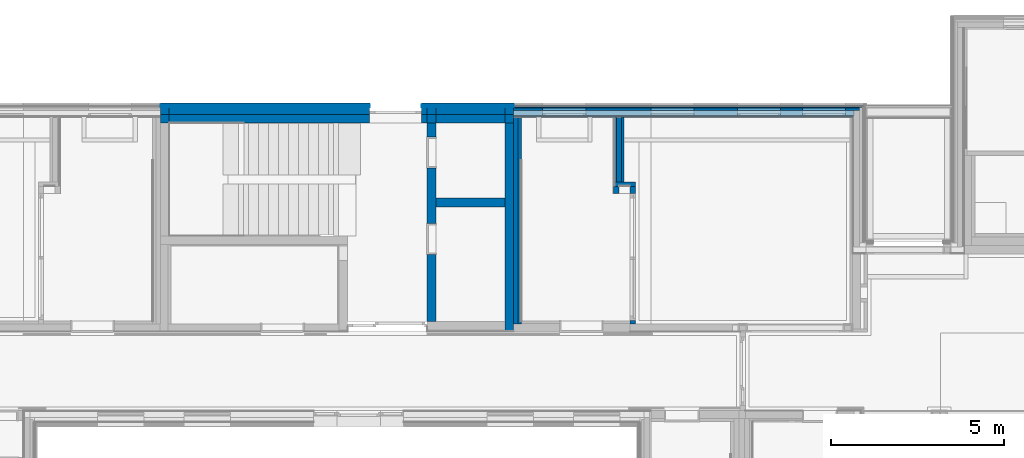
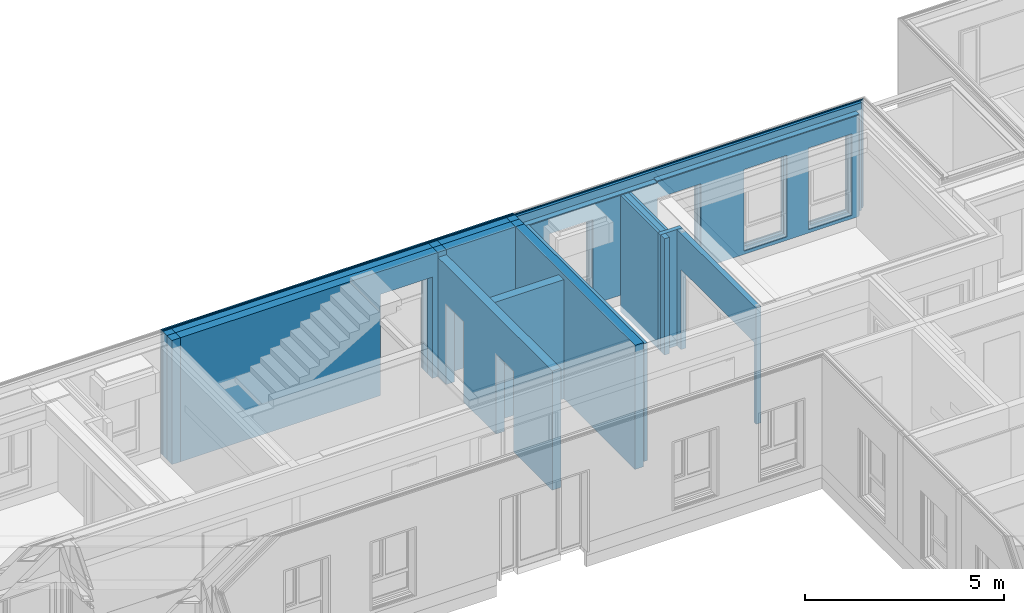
# One storey, part 41 of 207: 46 walls, 29 openings.
"""IFC4 building model written with IfcOpenShell, lengths in metres."""

from ifc_helpers import new_model, entity, si_unit, converted_unit, derived_unit, frame, frame_2d, origin, origin_with_axes, place, context, subcontext, project, spatial, polyline, rectangle, outline, extrude, clip, bounded_halfspace, material, element, save


model = new_model("IFC4")

# Units and contexts
model_context = context("Model", 3, precision=1e-05, world=origin())
body_context = subcontext(model_context, "Body", "Model", "MODEL_VIEW")
ifc_project = project(units=[si_unit("LENGTHUNIT", "METRE"), si_unit("AREAUNIT", "SQUARE_METRE"), si_unit("VOLUMEUNIT", "CUBIC_METRE"), si_unit("MASSUNIT", "GRAM", prefix="KILO"), converted_unit("PLANEANGLEUNIT", "DEGREE", entity("IfcPlaneAngleMeasure", 0.0174532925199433), si_unit("PLANEANGLEUNIT", "RADIAN"), dimensions=[0, 0, 0, 0, 0, 0, 0]), derived_unit("THERMALTRANSMITTANCEUNIT", [(si_unit("POWERUNIT", "WATT"), 1), (si_unit("THERMODYNAMICTEMPERATUREUNIT", "KELVIN"), -1), (si_unit("LENGTHUNIT", "METRE"), -2)]), derived_unit("VOLUMETRICFLOWRATEUNIT", [(si_unit("LENGTHUNIT", "METRE"), 3), (converted_unit("TIMEUNIT", "hour", entity("IfcTimeMeasure", 3600.0), si_unit("TIMEUNIT", "SECOND"), dimensions=[0, 0, 1, 0, 0, 0, 0]), -1), (si_unit("LENGTHUNIT", "METRE"), -1)])], contexts=[model_context])

# Site, building, storey
site_placement = place(None, origin())
site = spatial("IfcSite", under=ifc_project, at=site_placement, Name="Psychiatrie Neubau Wunstorf", CompositionType="ELEMENT")
building_placement = place(site_placement, origin())
building = spatial("IfcBuilding", under=site, at=building_placement, Name="Neubau H2 Stationsgebäude", CompositionType="ELEMENT")
storey_placement = place(building_placement, frame((0.0, 0.0, -0.2)))
storey = spatial("IfcBuildingStorey", under=building, at=storey_placement, Name="H2 Ebene 0", CompositionType="ELEMENT", Elevation=-0.2)

# Wall, openings
ifc_material_1 = material(Name="WA-LB")
wall_1_placement = place(storey_placement, frame((58.1, 29.0639996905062, 0.5)))
wall_1 = element("IfcWall", 1, at=wall_1_placement, inside=storey, material=ifc_material_1, context=body_context, shape_type="Clipping", body=[
    clip(extrude(rectangle(XDim=9.78900000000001, YDim=0.036, at=frame_2d((4.8945, 0.018), x_axis=(1.0, 0.0))), origin_with_axes(), (0.0, 0.0, 1.0), 3.1), bounded_halfspace(frame((1.98125000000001, 0.018, 3.06), z_axis=(0.0, 0.0, -1.0), x_axis=(-1.0, 0.0, 0.0)), True, origin_with_axes(), polyline([(3.96250000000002, 0.036), (0.0, 0.036), (0.0, 0.0), (3.96250000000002, 0.0), (3.96250000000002, 0.036)]))),
])
opening_1_placement = place(wall_1_placement, frame((9.58750000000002, 0.036, 0.1), z_axis=(0.0, -1.0, 0.0), x_axis=(0.0, 0.0, 1.0)))
element("IfcOpeningElement", 2, at=opening_1_placement, cuts=wall_1, Name="Fensteröffnung", ObjectType="Opening", context=body_context, shape_type="SweptSolid", body=[
    extrude(outline(polyline([(2.5, 1.25), (2.5, 0.0), (0.0, 0.0), (0.0, 1.25), (2.5, 1.25)])), origin_with_axes(), (0.0, 0.0, 1.0), 0.036),
])
opening_2_placement = place(wall_1_placement, frame((5.21250000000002, 0.036, 0.1), z_axis=(0.0, -1.0, 0.0), x_axis=(0.0, 0.0, 1.0)))
element("IfcOpeningElement", 3, at=opening_2_placement, cuts=wall_1, Name="Fensteröffnung", ObjectType="Opening", context=body_context, shape_type="SweptSolid", body=[
    extrude(outline(polyline([(2.5, 1.25), (2.5, 0.0), (0.0, 0.0), (0.0, 1.25), (2.5, 1.25)])), origin_with_axes(), (0.0, 0.0, 1.0), 0.036),
])
opening_3_placement = place(wall_1_placement, frame((2.08750000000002, 0.036, 0.1), z_axis=(0.0, -1.0, 0.0), x_axis=(0.0, 0.0, 1.0)))
element("IfcOpeningElement", 4, at=opening_3_placement, cuts=wall_1, Name="Fensteröffnung", ObjectType="Opening", context=body_context, shape_type="SweptSolid", body=[
    extrude(outline(polyline([(2.5, 1.25), (2.5, 0.0), (0.0, 0.0), (0.0, 1.25), (2.5, 1.25)])), origin_with_axes(), (0.0, 0.0, 1.0), 0.036),
])
opening_4_placement = place(wall_1_placement, frame((7.71250000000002, 0.036, 0.1), z_axis=(0.0, -1.0, 0.0), x_axis=(0.0, 0.0, 1.0)))
element("IfcOpeningElement", 5, at=opening_4_placement, cuts=wall_1, Name="Fensteröffnung", ObjectType="Opening", context=body_context, shape_type="SweptSolid", body=[
    extrude(outline(polyline([(2.5, 1.25), (2.5, 0.0), (0.0, 0.0), (0.0, 1.25), (2.5, 1.25)])), origin_with_axes(), (0.0, 0.0, 1.0), 0.036),
])

ifc_material_2 = material(Name="WA-HD")
wall_2_placement = place(storey_placement, frame((58.1, 29.0999996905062, 0.5)))
wall_2 = element("IfcWall", 6, at=wall_2_placement, inside=storey, material=ifc_material_2, context=body_context, shape_type="Clipping", body=[
    clip(extrude(rectangle(XDim=9.82500000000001, YDim=0.16, at=frame_2d((4.9125, 0.08), x_axis=(1.0, 0.0))), origin_with_axes(), (0.0, 0.0, 1.0), 3.1), bounded_halfspace(frame((1.98125000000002, 0.08, 3.06), z_axis=(0.0, 0.0, -1.0), x_axis=(-1.0, 0.0, 0.0)), True, origin_with_axes(), polyline([(3.96250000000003, 0.16), (0.0, 0.16), (0.0, 0.0), (3.96250000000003, 0.0), (3.96250000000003, 0.16)]))),
])
opening_5_placement = place(wall_2_placement, frame((9.58750000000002, 0.16, 0.1), z_axis=(0.0, -1.0, 0.0), x_axis=(0.0, 0.0, 1.0)))
element("IfcOpeningElement", 7, at=opening_5_placement, cuts=wall_2, Name="Fensteröffnung", ObjectType="Opening", context=body_context, shape_type="SweptSolid", body=[
    extrude(outline(polyline([(2.5, 1.25), (2.5, 0.0), (0.0, 0.0), (0.0, 1.25), (2.5, 1.25)])), origin_with_axes(), (0.0, 0.0, 1.0), 0.16),
])
opening_6_placement = place(wall_2_placement, frame((2.08750000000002, 0.16, 0.1), z_axis=(0.0, -1.0, 0.0), x_axis=(0.0, 0.0, 1.0)))
element("IfcOpeningElement", 8, at=opening_6_placement, cuts=wall_2, Name="Fensteröffnung", ObjectType="Opening", context=body_context, shape_type="SweptSolid", body=[
    extrude(outline(polyline([(2.5, 1.25), (2.5, 0.0), (0.0, 0.0), (0.0, 1.25), (2.5, 1.25)])), origin_with_axes(), (0.0, 0.0, 1.0), 0.16),
])
opening_7_placement = place(wall_2_placement, frame((5.21250000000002, 0.16, 0.1), z_axis=(0.0, -1.0, 0.0), x_axis=(0.0, 0.0, 1.0)))
element("IfcOpeningElement", 9, at=opening_7_placement, cuts=wall_2, Name="Fensteröffnung", ObjectType="Opening", context=body_context, shape_type="SweptSolid", body=[
    extrude(outline(polyline([(2.5, 1.25), (2.5, 0.0), (0.0, 0.0), (0.0, 1.25), (2.5, 1.25)])), origin_with_axes(), (0.0, 0.0, 1.0), 0.16),
])
opening_8_placement = place(wall_2_placement, frame((7.71250000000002, 0.16, 0.1), z_axis=(0.0, -1.0, 0.0), x_axis=(0.0, 0.0, 1.0)))
element("IfcOpeningElement", 10, at=opening_8_placement, cuts=wall_2, Name="Fensteröffnung", ObjectType="Opening", context=body_context, shape_type="SweptSolid", body=[
    extrude(outline(polyline([(2.5, 1.25), (2.5, 0.0), (0.0, 0.0), (0.0, 1.25), (2.5, 1.25)])), origin_with_axes(), (0.0, 0.0, 1.0), 0.16),
])

ifc_material_3 = material(Name="WA-DL")
wall_3_placement = place(storey_placement, frame((58.1, 29.2599996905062, 0.5)))
wall_3 = element("IfcWall", 11, at=wall_3_placement, inside=storey, material=ifc_material_3, context=body_context, shape_type="SweptSolid", body=[
    extrude(rectangle(XDim=9.98500000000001, YDim=0.08, at=frame_2d((4.9925, 0.04), x_axis=(1.0, 0.0))), origin_with_axes(), (0.0, 0.0, 1.0), 3.3),
])
opening_9_placement = place(wall_3_placement, frame((9.58750000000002, 0.08, 0.1), z_axis=(0.0, -1.0, 0.0), x_axis=(0.0, 0.0, 1.0)))
element("IfcOpeningElement", 12, at=opening_9_placement, cuts=wall_3, Name="Fensteröffnung", ObjectType="Opening", context=body_context, shape_type="SweptSolid", body=[
    extrude(outline(polyline([(2.5, 1.25), (2.5, 0.0), (0.0, 0.0), (0.0, 1.25), (2.5, 1.25)])), origin_with_axes(), (0.0, 0.0, 1.0), 0.08),
])
opening_10_placement = place(wall_3_placement, frame((2.08750000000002, 0.08, 0.1), z_axis=(0.0, -1.0, 0.0), x_axis=(0.0, 0.0, 1.0)))
element("IfcOpeningElement", 13, at=opening_10_placement, cuts=wall_3, Name="Fensteröffnung", ObjectType="Opening", context=body_context, shape_type="SweptSolid", body=[
    extrude(outline(polyline([(2.5, 1.25), (2.5, 0.0), (0.0, 0.0), (0.0, 1.25), (2.5, 1.25)])), origin_with_axes(), (0.0, 0.0, 1.0), 0.08),
])
opening_11_placement = place(wall_3_placement, frame((5.21250000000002, 0.08, 0.1), z_axis=(0.0, -1.0, 0.0), x_axis=(0.0, 0.0, 1.0)))
element("IfcOpeningElement", 14, at=opening_11_placement, cuts=wall_3, Name="Fensteröffnung", ObjectType="Opening", context=body_context, shape_type="SweptSolid", body=[
    extrude(outline(polyline([(2.5, 1.25), (2.5, 0.0), (0.0, 0.0), (0.0, 1.25), (2.5, 1.25)])), origin_with_axes(), (0.0, 0.0, 1.0), 0.08),
])
opening_12_placement = place(wall_3_placement, frame((7.71250000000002, 0.08, 0.1), z_axis=(0.0, -1.0, 0.0), x_axis=(0.0, 0.0, 1.0)))
element("IfcOpeningElement", 15, at=opening_12_placement, cuts=wall_3, Name="Fensteröffnung", ObjectType="Opening", context=body_context, shape_type="SweptSolid", body=[
    extrude(outline(polyline([(2.5, 1.25), (2.5, 0.0), (0.0, 0.0), (0.0, 1.25), (2.5, 1.25)])), origin_with_axes(), (0.0, 0.0, 1.0), 0.08),
])

ifc_material_4 = material(Name="WA-TP")
wall_4_placement = place(storey_placement, frame((58.1, 29.3399996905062, 0.5)))
wall_4 = element("IfcWall", 16, at=wall_4_placement, inside=storey, material=ifc_material_4, context=body_context, shape_type="SweptSolid", body=[
    extrude(rectangle(XDim=10.065, YDim=0.036, at=frame_2d((5.0325, 0.018), x_axis=(1.0, 0.0))), origin_with_axes(), (0.0, 0.0, 1.0), 3.3),
])
opening_13_placement = place(wall_4_placement, frame((9.58750000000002, 0.036, 0.1), z_axis=(0.0, -1.0, 0.0), x_axis=(0.0, 0.0, 1.0)))
element("IfcOpeningElement", 17, at=opening_13_placement, cuts=wall_4, Name="Fensteröffnung", ObjectType="Opening", context=body_context, shape_type="SweptSolid", body=[
    extrude(outline(polyline([(2.5, 1.25), (2.5, 0.0), (0.0, 0.0), (0.0, 1.25), (2.5, 1.25)])), origin_with_axes(), (0.0, 0.0, 1.0), 0.036),
])
opening_14_placement = place(wall_4_placement, frame((2.08750000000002, 0.036, 0.1), z_axis=(0.0, -1.0, 0.0), x_axis=(0.0, 0.0, 1.0)))
element("IfcOpeningElement", 18, at=opening_14_placement, cuts=wall_4, Name="Fensteröffnung", ObjectType="Opening", context=body_context, shape_type="SweptSolid", body=[
    extrude(outline(polyline([(2.5, 1.25), (2.5, 0.0), (0.0, 0.0), (0.0, 1.25), (2.5, 1.25)])), origin_with_axes(), (0.0, 0.0, 1.0), 0.036),
])
opening_15_placement = place(wall_4_placement, frame((5.21250000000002, 0.036, 0.1), z_axis=(0.0, -1.0, 0.0), x_axis=(0.0, 0.0, 1.0)))
element("IfcOpeningElement", 19, at=opening_15_placement, cuts=wall_4, Name="Fensteröffnung", ObjectType="Opening", context=body_context, shape_type="SweptSolid", body=[
    extrude(outline(polyline([(2.5, 1.25), (2.5, 0.0), (0.0, 0.0), (0.0, 1.25), (2.5, 1.25)])), origin_with_axes(), (0.0, 0.0, 1.0), 0.036),
])
opening_16_placement = place(wall_4_placement, frame((7.71250000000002, 0.036, 0.1), z_axis=(0.0, -1.0, 0.0), x_axis=(0.0, 0.0, 1.0)))
element("IfcOpeningElement", 20, at=opening_16_placement, cuts=wall_4, Name="Fensteröffnung", ObjectType="Opening", context=body_context, shape_type="SweptSolid", body=[
    extrude(outline(polyline([(2.5, 1.25), (2.5, 0.0), (0.0, 0.0), (0.0, 1.25), (2.5, 1.25)])), origin_with_axes(), (0.0, 0.0, 1.0), 0.036),
])

ifc_material_5 = material(Name="WA-KL")
wall_5_placement = place(storey_placement, frame((58.1, 29.3759996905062, 0.5)))
wall_5 = element("IfcWall", 21, at=wall_5_placement, inside=storey, material=ifc_material_5, context=body_context, shape_type="SweptSolid", body=[
    extrude(rectangle(XDim=10.101, YDim=0.024, at=frame_2d((5.0505, 0.012), x_axis=(1.0, 0.0))), origin_with_axes(), (0.0, 0.0, 1.0), 3.3),
])
opening_17_placement = place(wall_5_placement, frame((9.58750000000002, 0.024, 0.1), z_axis=(0.0, -1.0, 0.0), x_axis=(0.0, 0.0, 1.0)))
element("IfcOpeningElement", 22, at=opening_17_placement, cuts=wall_5, Name="Fensteröffnung", ObjectType="Opening", context=body_context, shape_type="SweptSolid", body=[
    extrude(outline(polyline([(2.5, 1.25), (2.5, 0.0), (0.0, 0.0), (0.0, 1.25), (2.5, 1.25)])), origin_with_axes(), (0.0, 0.0, 1.0), 0.024),
])
opening_18_placement = place(wall_5_placement, frame((2.08750000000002, 0.024, 0.1), z_axis=(0.0, -1.0, 0.0), x_axis=(0.0, 0.0, 1.0)))
element("IfcOpeningElement", 23, at=opening_18_placement, cuts=wall_5, Name="Fensteröffnung", ObjectType="Opening", context=body_context, shape_type="SweptSolid", body=[
    extrude(outline(polyline([(2.5, 1.25), (2.5, 0.0), (0.0, 0.0), (0.0, 1.25), (2.5, 1.25)])), origin_with_axes(), (0.0, 0.0, 1.0), 0.024),
])
opening_19_placement = place(wall_5_placement, frame((5.21250000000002, 0.024, 0.1), z_axis=(0.0, -1.0, 0.0), x_axis=(0.0, 0.0, 1.0)))
element("IfcOpeningElement", 24, at=opening_19_placement, cuts=wall_5, Name="Fensteröffnung", ObjectType="Opening", context=body_context, shape_type="SweptSolid", body=[
    extrude(outline(polyline([(2.5, 1.25), (2.5, 0.0), (0.0, 0.0), (0.0, 1.25), (2.5, 1.25)])), origin_with_axes(), (0.0, 0.0, 1.0), 0.024),
])
opening_20_placement = place(wall_5_placement, frame((7.71250000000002, 0.024, 0.1), z_axis=(0.0, -1.0, 0.0), x_axis=(0.0, 0.0, 1.0)))
element("IfcOpeningElement", 25, at=opening_20_placement, cuts=wall_5, Name="Fensteröffnung", ObjectType="Opening", context=body_context, shape_type="SweptSolid", body=[
    extrude(outline(polyline([(2.5, 1.25), (2.5, 0.0), (0.0, 0.0), (0.0, 1.25), (2.5, 1.25)])), origin_with_axes(), (0.0, 0.0, 1.0), 0.024),
])

# Walls
ifc_material_6 = material(Name="WA-STB")
wall_6_placement = place(storey_placement, frame((47.9, 28.8949996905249, 0.0)))
element("IfcWall", 26, at=wall_6_placement, inside=storey, material=ifc_material_6, context=body_context, shape_type="SweptSolid", body=[
    extrude(rectangle(XDim=0.25, YDim=0.25, at=frame_2d((0.125, 0.125), x_axis=(1.0, 0.0))), origin_with_axes(), (0.0, 0.0, 1.0), 3.8),
])
ifc_material_7 = material(Name="WA-DL")
wall_7_placement = place(storey_placement, frame((47.9, 29.1449996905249, 0.0)))
element("IfcWall", 27, at=wall_7_placement, inside=storey, material=ifc_material_7, context=body_context, shape_type="SweptSolid", body=[
    extrude(rectangle(XDim=0.25, YDim=0.21, at=frame_2d((0.125, 0.105), x_axis=(1.0, 0.0))), origin_with_axes(), (0.0, 0.0, 1.0), 3.8),
])
ifc_material_8 = material(Name="WA-LB")
wall_8_placement = place(storey_placement, frame((47.9, 29.3549996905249, 0.5)))
element("IfcWall", 28, at=wall_8_placement, inside=storey, material=ifc_material_8, context=body_context, shape_type="SweptSolid", body=[
    extrude(rectangle(XDim=0.25, YDim=0.021, at=frame_2d((0.125, 0.0105), x_axis=(1.0, 0.0))), origin_with_axes(), (0.0, 0.0, 1.0), 3.3),
])
ifc_material_9 = material(Name="WA-KL")
wall_9_placement = place(storey_placement, frame((47.9, 29.3759996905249, 0.0)))
element("IfcWall", 29, at=wall_9_placement, inside=storey, material=ifc_material_9, context=body_context, shape_type="SweptSolid", body=[
    extrude(rectangle(XDim=0.25, YDim=0.024, at=frame_2d((0.125, 0.012), x_axis=(1.0, 0.0))), origin_with_axes(), (0.0, 0.0, 1.0), 3.8),
])
ifc_material_10 = material(Name="WA-TL")
wall_10_placement = place(storey_placement, frame((47.9, 29.3999996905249, 0.0)))
element("IfcWall", 30, at=wall_10_placement, inside=storey, material=ifc_material_10, context=body_context, shape_type="SweptSolid", body=[
    extrude(rectangle(XDim=0.25, YDim=0.024, at=frame_2d((0.125, 0.012), x_axis=(1.0, 0.0))), origin_with_axes(), (0.0, 0.0, 1.0), 3.8),
])
ifc_material_11 = material(Name="WA-HS")
wall_11_placement = place(storey_placement, frame((47.9, 29.4239996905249, 0.0)))
element("IfcWall", 31, at=wall_11_placement, inside=storey, material=ifc_material_11, context=body_context, shape_type="SweptSolid", body=[
    extrude(rectangle(XDim=0.25, YDim=0.042, at=frame_2d((0.125, 0.021), x_axis=(1.0, 0.0))), origin_with_axes(), (0.0, 0.0, 1.0), 3.8),
])

# Wall, opening
ifc_material_12 = material(Name="WA-STB")
wall_12_placement = place(storey_placement, frame((48.15, 28.8949996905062, 0.0)))
wall_12 = element("IfcWall", 32, at=wall_12_placement, inside=storey, material=ifc_material_12, context=body_context, shape_type="SweptSolid", body=[
    extrude(rectangle(XDim=7.45, YDim=0.25, at=frame_2d((3.725, 0.125), x_axis=(1.0, 0.0))), origin_with_axes(), (0.0, 0.0, 1.0), 3.8),
])
opening_21_placement = place(wall_12_placement, frame((7.28750000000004, 0.25, 0.0), z_axis=(0.0, -1.0, 0.0), x_axis=(0.0, 0.0, 1.0)))
element("IfcOpeningElement", 33, at=opening_21_placement, cuts=wall_12, Name="Türöffnung", ObjectType="Opening", context=body_context, shape_type="SweptSolid", body=[
    extrude(outline(polyline([(3.1, 1.5000257), (3.1, 0.0), (0.0, 0.0), (0.0, 1.5000257), (3.1, 1.5000257)])), origin_with_axes(), (0.0, 0.0, 1.0), 0.25),
])

ifc_material_13 = material(Name="WA-DL")
wall_13_placement = place(storey_placement, frame((48.15, 29.1449996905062, 0.0)))
wall_13 = element("IfcWall", 34, at=wall_13_placement, inside=storey, material=ifc_material_13, context=body_context, shape_type="SweptSolid", body=[
    extrude(rectangle(XDim=7.45, YDim=0.21, at=frame_2d((3.725, 0.105), x_axis=(1.0, 0.0))), origin_with_axes(), (0.0, 0.0, 1.0), 3.8),
])
opening_22_placement = place(wall_13_placement, frame((7.28750000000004, 0.21, 0.0), z_axis=(0.0, -1.0, 0.0), x_axis=(0.0, 0.0, 1.0)))
element("IfcOpeningElement", 35, at=opening_22_placement, cuts=wall_13, Name="Türöffnung", ObjectType="Opening", context=body_context, shape_type="SweptSolid", body=[
    extrude(outline(polyline([(3.1, 1.5000257), (3.1, 0.0), (0.0, 0.0), (0.0, 1.5000257), (3.1, 1.5000257)])), origin_with_axes(), (0.0, 0.0, 1.0), 0.21),
])

ifc_material_14 = material(Name="WA-LB")
wall_14_placement = place(storey_placement, frame((48.15, 29.3549996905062, 0.5)))
wall_14 = element("IfcWall", 36, at=wall_14_placement, inside=storey, material=ifc_material_14, context=body_context, shape_type="SweptSolid", body=[
    extrude(rectangle(XDim=7.45, YDim=0.021, at=frame_2d((3.725, 0.0105), x_axis=(1.0, 0.0))), origin_with_axes(), (0.0, 0.0, 1.0), 3.3),
])
opening_23_placement = place(wall_14_placement, frame((7.28750000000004, 0.021, -0.5), z_axis=(0.0, -1.0, 0.0), x_axis=(0.0, 0.0, 1.0)))
element("IfcOpeningElement", 37, at=opening_23_placement, cuts=wall_14, Name="Türöffnung", ObjectType="Opening", context=body_context, shape_type="SweptSolid", body=[
    extrude(outline(polyline([(3.1, 1.5000257), (3.1, 0.0), (0.0, 0.0), (0.0, 1.5000257), (3.1, 1.5000257)])), origin_with_axes(), (0.0, 0.0, 1.0), 0.021),
])

ifc_material_15 = material(Name="WA-KL")
wall_15_placement = place(storey_placement, frame((48.15, 29.3759996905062, 0.0)))
wall_15 = element("IfcWall", 38, at=wall_15_placement, inside=storey, material=ifc_material_15, context=body_context, shape_type="SweptSolid", body=[
    extrude(rectangle(XDim=7.45, YDim=0.024, at=frame_2d((3.725, 0.012), x_axis=(1.0, 0.0))), origin_with_axes(), (0.0, 0.0, 1.0), 3.8),
])
opening_24_placement = place(wall_15_placement, frame((7.28750000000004, 0.024, 0.0), z_axis=(0.0, -1.0, 0.0), x_axis=(0.0, 0.0, 1.0)))
element("IfcOpeningElement", 39, at=opening_24_placement, cuts=wall_15, Name="Türöffnung", ObjectType="Opening", context=body_context, shape_type="SweptSolid", body=[
    extrude(outline(polyline([(3.1, 1.5000257), (3.1, 0.0), (0.0, 0.0), (0.0, 1.5000257), (3.1, 1.5000257)])), origin_with_axes(), (0.0, 0.0, 1.0), 0.024),
])

ifc_material_16 = material(Name="WA-TL")
wall_16_placement = place(storey_placement, frame((48.15, 29.3999996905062, 0.0)))
wall_16 = element("IfcWall", 40, at=wall_16_placement, inside=storey, material=ifc_material_16, context=body_context, shape_type="SweptSolid", body=[
    extrude(rectangle(XDim=7.45, YDim=0.024, at=frame_2d((3.725, 0.012), x_axis=(1.0, 0.0))), origin_with_axes(), (0.0, 0.0, 1.0), 3.8),
])
opening_25_placement = place(wall_16_placement, frame((7.28750000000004, 0.024, 0.0), z_axis=(0.0, -1.0, 0.0), x_axis=(0.0, 0.0, 1.0)))
element("IfcOpeningElement", 41, at=opening_25_placement, cuts=wall_16, Name="Türöffnung", ObjectType="Opening", context=body_context, shape_type="SweptSolid", body=[
    extrude(outline(polyline([(3.1, 1.5000257), (3.1, 0.0), (0.0, 0.0), (0.0, 1.5000257), (3.1, 1.5000257)])), origin_with_axes(), (0.0, 0.0, 1.0), 0.024),
])

ifc_material_17 = material(Name="WA-HS")
wall_17_placement = place(storey_placement, frame((48.15, 29.4239996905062, 0.0)))
wall_17 = element("IfcWall", 42, at=wall_17_placement, inside=storey, material=ifc_material_17, context=body_context, shape_type="SweptSolid", body=[
    extrude(rectangle(XDim=7.45, YDim=0.042, at=frame_2d((3.725, 0.021), x_axis=(1.0, 0.0))), origin_with_axes(), (0.0, 0.0, 1.0), 3.8),
])
opening_26_placement = place(wall_17_placement, frame((7.28750000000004, 0.042, 0.0), z_axis=(0.0, -1.0, 0.0), x_axis=(0.0, 0.0, 1.0)))
element("IfcOpeningElement", 43, at=opening_26_placement, cuts=wall_17, Name="Türöffnung", ObjectType="Opening", context=body_context, shape_type="SweptSolid", body=[
    extrude(outline(polyline([(3.1, 1.5000257), (3.1, 0.0), (0.0, 0.0), (0.0, 1.5000257), (3.1, 1.5000257)])), origin_with_axes(), (0.0, 0.0, 1.0), 0.042),
])

# Walls
ifc_material_18 = material(Name="WA-STB")
wall_18_placement = place(storey_placement, frame((55.6, 28.8949996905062, 0.0)))
element("IfcWall", 44, at=wall_18_placement, inside=storey, material=ifc_material_18, context=body_context, shape_type="SweptSolid", body=[
    extrude(rectangle(XDim=0.25, YDim=0.25, at=frame_2d((0.125, 0.125), x_axis=(1.0, 0.0))), origin_with_axes(), (0.0, 0.0, 1.0), 3.8),
])
ifc_material_19 = material(Name="WA-DL")
wall_19_placement = place(storey_placement, frame((55.6, 29.1449996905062, 0.0)))
element("IfcWall", 45, at=wall_19_placement, inside=storey, material=ifc_material_19, context=body_context, shape_type="SweptSolid", body=[
    extrude(rectangle(XDim=0.25, YDim=0.21, at=frame_2d((0.125, 0.105), x_axis=(1.0, 0.0))), origin_with_axes(), (0.0, 0.0, 1.0), 3.8),
])
ifc_material_20 = material(Name="WA-LB")
wall_20_placement = place(storey_placement, frame((55.6, 29.3549996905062, 0.5)))
element("IfcWall", 46, at=wall_20_placement, inside=storey, material=ifc_material_20, context=body_context, shape_type="SweptSolid", body=[
    extrude(rectangle(XDim=0.25, YDim=0.021, at=frame_2d((0.125, 0.0105), x_axis=(1.0, 0.0))), origin_with_axes(), (0.0, 0.0, 1.0), 3.3),
])
ifc_material_21 = material(Name="WA-KL")
wall_21_placement = place(storey_placement, frame((55.6, 29.3759996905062, 0.0)))
element("IfcWall", 47, at=wall_21_placement, inside=storey, material=ifc_material_21, context=body_context, shape_type="SweptSolid", body=[
    extrude(rectangle(XDim=0.25, YDim=0.024, at=frame_2d((0.125, 0.012), x_axis=(1.0, 0.0))), origin_with_axes(), (0.0, 0.0, 1.0), 3.8),
])
ifc_material_22 = material(Name="WA-TL")
wall_22_placement = place(storey_placement, frame((55.6, 29.3999996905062, 0.0)))
element("IfcWall", 48, at=wall_22_placement, inside=storey, material=ifc_material_22, context=body_context, shape_type="SweptSolid", body=[
    extrude(rectangle(XDim=0.25, YDim=0.024, at=frame_2d((0.125, 0.012), x_axis=(1.0, 0.0))), origin_with_axes(), (0.0, 0.0, 1.0), 3.8),
])
ifc_material_23 = material(Name="WA-HS")
wall_23_placement = place(storey_placement, frame((55.6, 29.4239996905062, 0.0)))
element("IfcWall", 49, at=wall_23_placement, inside=storey, material=ifc_material_23, context=body_context, shape_type="SweptSolid", body=[
    extrude(rectangle(XDim=0.25, YDim=0.042, at=frame_2d((0.125, 0.021), x_axis=(1.0, 0.0))), origin_with_axes(), (0.0, 0.0, 1.0), 3.8),
])
ifc_material_24 = material(Name="WA-STB")
wall_24_placement = place(storey_placement, frame((55.85, 28.8949996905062, 0.0)))
element("IfcWall", 50, at=wall_24_placement, inside=storey, material=ifc_material_24, context=body_context, shape_type="SweptSolid", body=[
    extrude(rectangle(XDim=2.00000000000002, YDim=0.25, at=frame_2d((1.00000000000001, 0.125), x_axis=(1.0, 0.0))), origin_with_axes(), (0.0, 0.0, 1.0), 3.8),
])
ifc_material_25 = material(Name="WA-DL")
wall_25_placement = place(storey_placement, frame((55.85, 29.1449996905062, 0.0)))
element("IfcWall", 51, at=wall_25_placement, inside=storey, material=ifc_material_25, context=body_context, shape_type="SweptSolid", body=[
    extrude(rectangle(XDim=2.00000000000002, YDim=0.21, at=frame_2d((1.00000000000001, 0.105), x_axis=(1.0, 0.0))), origin_with_axes(), (0.0, 0.0, 1.0), 3.8),
])
ifc_material_26 = material(Name="WA-LB")
wall_26_placement = place(storey_placement, frame((55.85, 29.3549996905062, 0.5)))
element("IfcWall", 52, at=wall_26_placement, inside=storey, material=ifc_material_26, context=body_context, shape_type="SweptSolid", body=[
    extrude(rectangle(XDim=2.00000000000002, YDim=0.021, at=frame_2d((1.00000000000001, 0.0105), x_axis=(1.0, 0.0))), origin_with_axes(), (0.0, 0.0, 1.0), 3.3),
])
ifc_material_27 = material(Name="WA-KL")
wall_27_placement = place(storey_placement, frame((55.85, 29.3759996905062, 0.0)))
element("IfcWall", 53, at=wall_27_placement, inside=storey, material=ifc_material_27, context=body_context, shape_type="SweptSolid", body=[
    extrude(rectangle(XDim=2.00000000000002, YDim=0.024, at=frame_2d((1.00000000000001, 0.012), x_axis=(1.0, 0.0))), origin_with_axes(), (0.0, 0.0, 1.0), 3.8),
])
ifc_material_28 = material(Name="WA-TL")
wall_28_placement = place(storey_placement, frame((55.85, 29.3999996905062, 0.0)))
element("IfcWall", 54, at=wall_28_placement, inside=storey, material=ifc_material_28, context=body_context, shape_type="SweptSolid", body=[
    extrude(rectangle(XDim=2.00000000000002, YDim=0.024, at=frame_2d((1.00000000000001, 0.012), x_axis=(1.0, 0.0))), origin_with_axes(), (0.0, 0.0, 1.0), 3.8),
])
ifc_material_29 = material(Name="WA-HS")
wall_29_placement = place(storey_placement, frame((55.85, 29.4239996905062, 0.0)))
element("IfcWall", 55, at=wall_29_placement, inside=storey, material=ifc_material_29, context=body_context, shape_type="SweptSolid", body=[
    extrude(rectangle(XDim=2.00000000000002, YDim=0.042, at=frame_2d((1.00000000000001, 0.021), x_axis=(1.0, 0.0))), origin_with_axes(), (0.0, 0.0, 1.0), 3.8),
])
ifc_material_30 = material(Name="WA-STB")
wall_30_placement = place(storey_placement, frame((57.85, 28.8949996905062, 0.0)))
element("IfcWall", 56, at=wall_30_placement, inside=storey, material=ifc_material_30, context=body_context, shape_type="SweptSolid", body=[
    extrude(rectangle(XDim=0.25, YDim=0.25, at=frame_2d((0.125, 0.125), x_axis=(1.0, 0.0))), origin_with_axes(), (0.0, 0.0, 1.0), 3.8),
])
ifc_material_31 = material(Name="WA-DL")
wall_31_placement = place(storey_placement, frame((57.85, 29.1449996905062, 0.0)))
element("IfcWall", 57, at=wall_31_placement, inside=storey, material=ifc_material_31, context=body_context, shape_type="SweptSolid", body=[
    extrude(rectangle(XDim=0.25, YDim=0.21, at=frame_2d((0.125, 0.105), x_axis=(1.0, 0.0))), origin_with_axes(), (0.0, 0.0, 1.0), 3.8),
])
ifc_material_32 = material(Name="WA-LB")
wall_32_placement = place(storey_placement, frame((57.85, 29.3549996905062, 0.5)))
element("IfcWall", 58, at=wall_32_placement, inside=storey, material=ifc_material_32, context=body_context, shape_type="SweptSolid", body=[
    extrude(rectangle(XDim=0.25, YDim=0.021, at=frame_2d((0.125, 0.0105), x_axis=(1.0, 0.0))), origin_with_axes(), (0.0, 0.0, 1.0), 3.3),
])
ifc_material_33 = material(Name="WA-KL")
wall_33_placement = place(storey_placement, frame((57.85, 29.3759996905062, 0.0)))
element("IfcWall", 59, at=wall_33_placement, inside=storey, material=ifc_material_33, context=body_context, shape_type="SweptSolid", body=[
    extrude(rectangle(XDim=0.25, YDim=0.024, at=frame_2d((0.125, 0.012), x_axis=(1.0, 0.0))), origin_with_axes(), (0.0, 0.0, 1.0), 3.8),
])
ifc_material_34 = material(Name="WA-TL")
wall_34_placement = place(storey_placement, frame((57.85, 29.3999996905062, 0.0)))
element("IfcWall", 60, at=wall_34_placement, inside=storey, material=ifc_material_34, context=body_context, shape_type="SweptSolid", body=[
    extrude(rectangle(XDim=0.25, YDim=0.024, at=frame_2d((0.125, 0.012), x_axis=(1.0, 0.0))), origin_with_axes(), (0.0, 0.0, 1.0), 3.8),
])
ifc_material_35 = material(Name="WA-HS")
wall_35_placement = place(storey_placement, frame((57.85, 29.4239996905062, 0.0)))
element("IfcWall", 61, at=wall_35_placement, inside=storey, material=ifc_material_35, context=body_context, shape_type="SweptSolid", body=[
    extrude(rectangle(XDim=0.25, YDim=0.042, at=frame_2d((0.125, 0.021), x_axis=(1.0, 0.0))), origin_with_axes(), (0.0, 0.0, 1.0), 3.8),
])
ifc_material_36 = material(Name="WA-STB")
wall_36_placement = place(storey_placement, frame((57.85, 26.7249998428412, 0.0), z_axis=(0.0, 0.0, 1.0), x_axis=(-1.0, 3.87430191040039e-10, 0.0)))
element("IfcWall", 62, at=wall_36_placement, inside=storey, material=ifc_material_36, context=body_context, shape_type="SweptSolid", body=[
    extrude(rectangle(XDim=2.0, YDim=0.25, at=frame_2d((1.0, 0.125), x_axis=(1.0, 0.0))), origin_with_axes(), (0.0, 0.0, 1.0), 3.65),
])
ifc_material_37 = material(Name="Installationsraum")
wall_37_placement = place(storey_placement, frame((58.1, 29.0639996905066, 0.0), z_axis=(0.0, 0.0, 1.0), x_axis=(0.0, -1.0, 0.0)))
element("IfcWall", 63, at=wall_37_placement, inside=storey, material=ifc_material_37, context=body_context, shape_type="SweptSolid", body=[
    extrude(rectangle(XDim=5.96799969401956, YDim=0.125, at=frame_2d((2.98399984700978, 0.0625), x_axis=(1.0, 0.0))), origin_with_axes(), (0.0, 0.0, 1.0), 3.6),
])
ifc_material_38 = material(Name="WI-VS")
wall_38_placement = place(storey_placement, frame((58.225, 29.0639996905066, 0.0), z_axis=(0.0, 0.0, 1.0), x_axis=(0.0, -1.0, 0.0)))
element("IfcWall", 64, at=wall_38_placement, inside=storey, material=ifc_material_38, context=body_context, shape_type="SweptSolid", body=[
    extrude(rectangle(XDim=5.96799969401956, YDim=0.1, at=frame_2d((2.98399984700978, 0.05), x_axis=(1.0, 0.0))), origin_with_axes(), (0.0, 0.0, 1.0), 3.6),
])

# Wall, openings
ifc_material_39 = material(Name="WA-STB")
wall_39_placement = place(storey_placement, frame((55.6, 28.8949996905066, 0.0), z_axis=(0.0, 0.0, 1.0), x_axis=(0.0, -1.0, 0.0)))
wall_39 = element("IfcWall", 65, at=wall_39_placement, inside=storey, material=ifc_material_39, context=body_context, shape_type="SweptSolid", body=[
    extrude(rectangle(XDim=5.73999969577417, YDim=0.25, at=frame_2d((2.86999984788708, 0.125), x_axis=(1.0, 0.0))), origin_with_axes(), (0.0, 0.0, 1.0), 3.65),
])
opening_27_placement = place(wall_39_placement, frame((3.79499984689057, 0.25, 0.0), z_axis=(0.0, -1.0, 0.0), x_axis=(0.0, 0.0, 1.0)))
element("IfcOpeningElement", 66, at=opening_27_placement, cuts=wall_39, Name="Türöffnung", ObjectType="Opening", context=body_context, shape_type="SweptSolid", body=[
    extrude(outline(polyline([(2.46, 0.885), (2.46, 0.0), (0.0, 0.0), (0.0, 0.885), (2.46, 0.885)])), origin_with_axes(), (0.0, 0.0, 1.0), 0.25),
])
opening_28_placement = place(wall_39_placement, frame((1.2949999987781, 0.25, 0.0), z_axis=(0.0, -1.0, 0.0), x_axis=(0.0, 0.0, 1.0)))
element("IfcOpeningElement", 67, at=opening_28_placement, cuts=wall_39, Name="Türöffnung", ObjectType="Opening", context=body_context, shape_type="SweptSolid", body=[
    extrude(outline(polyline([(2.46, 0.885), (2.46, 0.0), (0.0, 0.0), (0.0, 0.885), (2.46, 0.885)])), origin_with_axes(), (0.0, 0.0, 1.0), 0.25),
])

# Walls
ifc_material_40 = material(Name="WI-IW")
wall_40_placement = place(storey_placement, frame((61.289, 27.1889996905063, 0.0), z_axis=(0.0, 0.0, 1.0), x_axis=(0.0, 1.0, 0.0)))
element("IfcWall", 68, at=wall_40_placement, inside=storey, material=ifc_material_40, context=body_context, shape_type="SweptSolid", body=[
    extrude(rectangle(XDim=1.875, YDim=0.075, at=frame_2d((0.937499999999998, 0.0375), x_axis=(1.0, 0.0))), origin_with_axes(), (0.0, 0.0, 1.0), 3.56),
])
ifc_material_41 = material(Name="Installationsraum")
wall_41_placement = place(storey_placement, frame((61.214, 27.1889996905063, 0.0), z_axis=(0.0, 0.0, 1.0), x_axis=(0.0, 1.0, 0.0)))
element("IfcWall", 69, at=wall_41_placement, inside=storey, material=ifc_material_41, context=body_context, shape_type="SweptSolid", body=[
    extrude(rectangle(XDim=1.875, YDim=0.15, at=frame_2d((0.937499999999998, 0.075), x_axis=(1.0, 0.0))), origin_with_axes(), (0.0, 0.0, 1.0), 3.56),
])
ifc_material_42 = material(Name="WI-IW")
wall_42_placement = place(storey_placement, frame((61.064, 27.1889996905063, 0.0), z_axis=(0.0, 0.0, 1.0), x_axis=(0.0, 1.0, 0.0)))
element("IfcWall", 70, at=wall_42_placement, inside=storey, material=ifc_material_42, context=body_context, shape_type="SweptSolid", body=[
    extrude(rectangle(XDim=1.875, YDim=0.075, at=frame_2d((0.937499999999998, 0.0375), x_axis=(1.0, 0.0))), origin_with_axes(), (0.0, 0.0, 1.0), 3.56),
])
ifc_material_43 = material(Name="WI-LB")
wall_43_placement = place(storey_placement, frame((61.614, 27.1889996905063, 0.0), z_axis=(0.0, 0.0, 1.0), x_axis=(-1.0, 0.0, 0.0)))
element("IfcWall", 71, at=wall_43_placement, inside=storey, material=ifc_material_43, context=body_context, shape_type="SweptSolid", body=[
    extrude(rectangle(XDim=0.625, YDim=0.125, at=frame_2d((0.3125, 0.0625), x_axis=(1.0, 0.0))), origin_with_axes(), (0.0, 0.0, 1.0), 3.56),
])
ifc_material_44 = material(Name="WI-LB")
wall_44_placement = place(storey_placement, frame((61.139, 26.8639996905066, 0.0), z_axis=(0.0, 0.0, 1.0), x_axis=(0.0, 1.0, 0.0)))
element("IfcWall", 72, at=wall_44_placement, inside=storey, material=ifc_material_44, context=body_context, shape_type="SweptSolid", body=[
    extrude(rectangle(XDim=0.199999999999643, YDim=0.15, at=frame_2d((0.0999999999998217, 0.075), x_axis=(1.0, 0.0))), origin_with_axes(), (0.0, 0.0, 1.0), 3.56),
])

# Wall, opening
ifc_material_45 = material(Name="WI-LB")
wall_45_placement = place(storey_placement, frame((61.464, 27.0639996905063, 0.0), z_axis=(0.0, 0.0, 1.0), x_axis=(0.0, -1.0, 0.0)))
wall_45 = element("IfcWall", 73, at=wall_45_placement, inside=storey, material=ifc_material_45, context=body_context, shape_type="SweptSolid", body=[
    extrude(rectangle(XDim=3.9679996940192, YDim=0.15, at=frame_2d((1.9839998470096, 0.075), x_axis=(1.0, 0.0))), origin_with_axes(), (0.0, 0.0, 1.0), 3.56),
])
opening_29_placement = place(wall_45_placement, frame((0.199999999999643, 0.0, 0.0), z_axis=(0.0, 1.0, 0.0), x_axis=(0.0, 0.0, 1.0)))
element("IfcOpeningElement", 74, at=opening_29_placement, cuts=wall_45, Name="Türöffnung", ObjectType="Opening", context=body_context, shape_type="SweptSolid", body=[
    extrude(outline(polyline([(2.46, 3.667), (2.46, 0.0), (0.0, 0.0), (0.0, 3.667), (2.46, 3.667)])), origin_with_axes(), (0.0, 0.0, 1.0), 0.15),
])

# Wall
ifc_material_46 = material(Name="WI-STB")
wall_46_placement = place(storey_placement, frame((57.85, 28.8949996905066, 0.0), z_axis=(0.0, 0.0, 1.0), x_axis=(0.0, -1.0, 0.0)))
element("IfcWall", 75, at=wall_46_placement, inside=storey, material=ifc_material_46, context=body_context, shape_type="SweptSolid", body=[
    extrude(rectangle(XDim=5.98999969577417, YDim=0.25, at=frame_2d((2.99499984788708, 0.125), x_axis=(1.0, 0.0))), origin_with_axes(), (0.0, 0.0, 1.0), 3.8),
])

save(model, "model.ifc")
